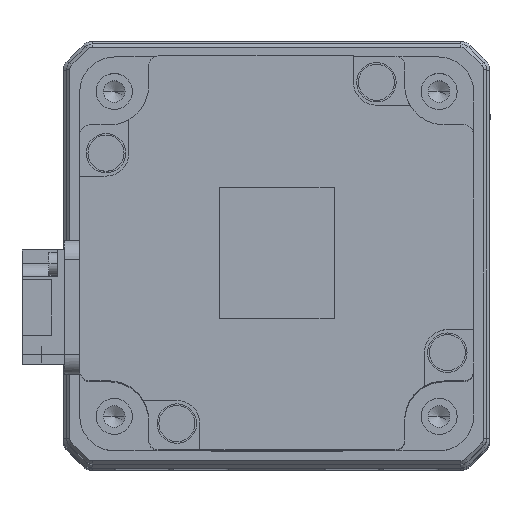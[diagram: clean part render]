
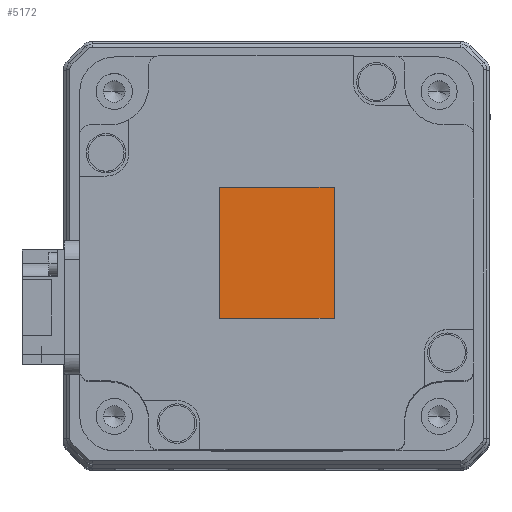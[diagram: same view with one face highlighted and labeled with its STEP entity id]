
A CAD part, top view. The second image highlights one B-rep face of the part: STEP entity #5172.
In plain terms, the highlighted planar face has unit normal (0, 0, 1) as drawn and (0, 0, -1) by its records, which use the part's own axes.
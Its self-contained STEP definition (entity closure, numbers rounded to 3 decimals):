
#295 = ORIENTED_EDGE ( 'NONE', *, *, #11043, .T. ) ;
#648 = DIRECTION ( 'NONE',  ( 0., -1., 0. ) ) ;
#1259 = ORIENTED_EDGE ( 'NONE', *, *, #25634, .T. ) ;
#1723 = CARTESIAN_POINT ( 'NONE',  ( -10., 8.75, -98.6 ) ) ;
#3361 = VECTOR ( 'NONE', #648, 1000. ) ;
#4030 = VERTEX_POINT ( 'NONE', #28796 ) ;
#4742 = ORIENTED_EDGE ( 'NONE', *, *, #10320, .T. ) ;
#4749 = VERTEX_POINT ( 'NONE', #22727 ) ;
#5123 = CARTESIAN_POINT ( 'NONE',  ( 10., 8.75, -98.6 ) ) ;
#5172 = ADVANCED_FACE ( 'NONE', ( #17545 ), #28349, .T. ) ;
#5322 = DIRECTION ( 'NONE',  ( 0., 1., 0. ) ) ;
#5476 = VECTOR ( 'NONE', #5322, 1000. ) ;
#7701 = DIRECTION ( 'NONE',  ( 1., 0., 0. ) ) ;
#8972 = AXIS2_PLACEMENT_3D ( 'NONE', #12849, #15424, #33550 ) ;
#10320 = EDGE_CURVE ( 'NONE', #4749, #28389, #26150, .T. ) ;
#10580 = VECTOR ( 'NONE', #7701, 1000. ) ;
#10602 = EDGE_LOOP ( 'NONE', ( #4742, #17516, #295, #1259 ) ) ;
#11043 = EDGE_CURVE ( 'NONE', #14074, #4030, #24817, .T. ) ;
#12339 = CARTESIAN_POINT ( 'NONE',  ( 10., 8.75, -98.6 ) ) ;
#12849 = CARTESIAN_POINT ( 'NONE',  ( 10., -8.75, -98.6 ) ) ;
#13540 = CARTESIAN_POINT ( 'NONE',  ( 10., 8.75, -98.6 ) ) ;
#13648 = LINE ( 'NONE', #22705, #26631 ) ;
#14074 = VERTEX_POINT ( 'NONE', #12339 ) ;
#15424 = DIRECTION ( 'NONE',  ( 0., 0., -1. ) ) ;
#17516 = ORIENTED_EDGE ( 'NONE', *, *, #23155, .T. ) ;
#17545 = FACE_OUTER_BOUND ( 'NONE', #10602, .T. ) ;
#22705 = CARTESIAN_POINT ( 'NONE',  ( 10., -8.75, -98.6 ) ) ;
#22727 = CARTESIAN_POINT ( 'NONE',  ( -10., -8.75, -98.6 ) ) ;
#23155 = EDGE_CURVE ( 'NONE', #28389, #14074, #24341, .T. ) ;
#23443 = CARTESIAN_POINT ( 'NONE',  ( -10., 8.75, -98.6 ) ) ;
#24341 = LINE ( 'NONE', #5123, #10580 ) ;
#24817 = LINE ( 'NONE', #13540, #3361 ) ;
#25290 = DIRECTION ( 'NONE',  ( -1., 0., 0. ) ) ;
#25634 = EDGE_CURVE ( 'NONE', #4030, #4749, #13648, .T. ) ;
#26150 = LINE ( 'NONE', #23443, #5476 ) ;
#26631 = VECTOR ( 'NONE', #25290, 1000. ) ;
#28349 = PLANE ( 'NONE',  #8972 ) ;
#28389 = VERTEX_POINT ( 'NONE', #1723 ) ;
#28796 = CARTESIAN_POINT ( 'NONE',  ( 10., -8.75, -98.6 ) ) ;
#33550 = DIRECTION ( 'NONE',  ( -1., 0., 0. ) ) ;
